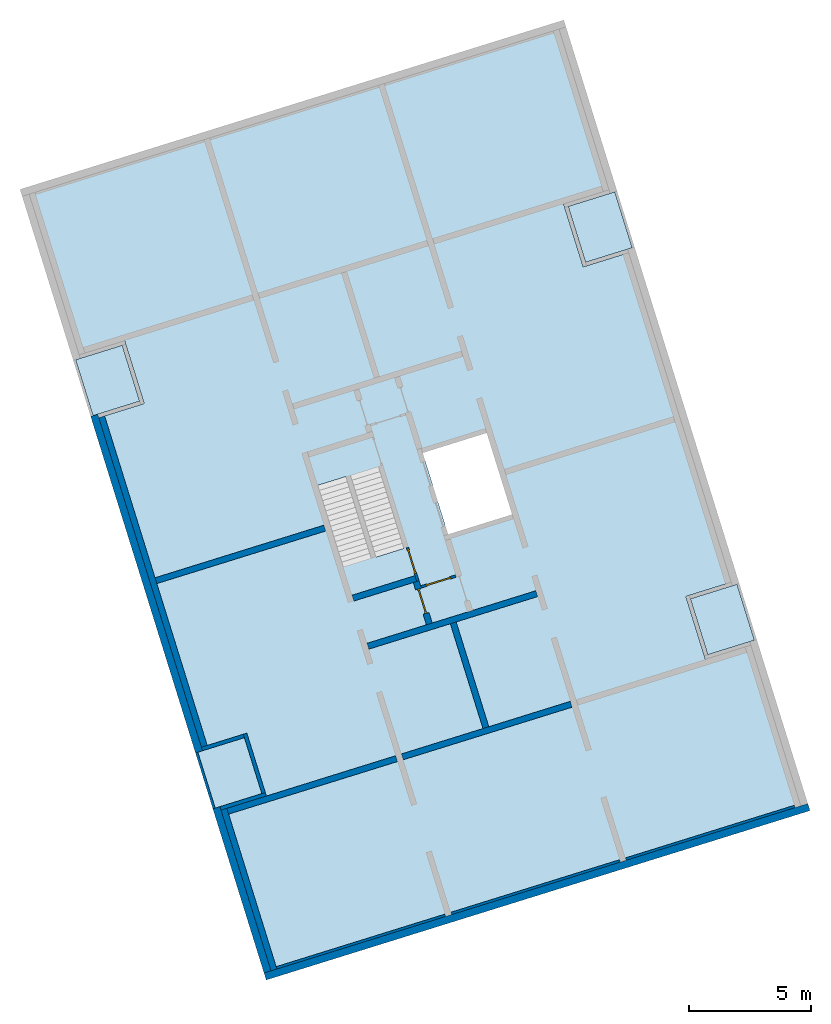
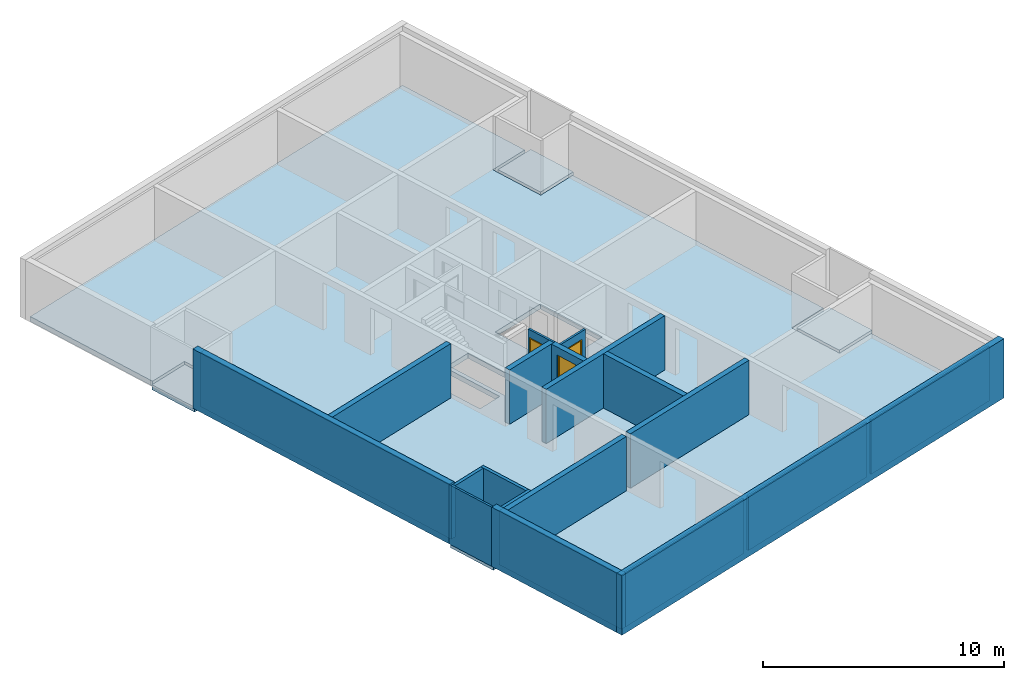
# One storey, part 1 of 5: 21 walls, 5 slabs, 3 doors, 5 openings.
"""IFC4 building model written with IfcOpenShell, lengths in metres."""

from ifc_helpers import new_model, entity, si_unit, converted_unit, direction, frame, origin, place, context, subcontext, project, spatial, indexed_curve, outline, extrude, polygons, source, transform, mapped, material, constituent, constituent_set, type_object, type_shapes, element, fill, save


model = new_model("IFC4")

# Units and contexts
model_context = context("Model", 3, precision=1e-05, world=origin(), true_north=direction((6.12323399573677e-17, 1.0)))
body_context = subcontext(model_context, "Body", "Model", "MODEL_VIEW")
ifc_project = project(units=[si_unit("LENGTHUNIT", "METRE"), si_unit("AREAUNIT", "SQUARE_METRE"), si_unit("VOLUMEUNIT", "CUBIC_METRE"), converted_unit("PLANEANGLEUNIT", "DEGREE", entity("IfcPlaneAngleMeasure", 0.0174532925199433), si_unit("PLANEANGLEUNIT", "RADIAN"), dimensions=[0, 0, 0, 0, 0, 0, 0])], contexts=[model_context])

# Site, building, storey
site_placement = place(None, frame((13.1347999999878, 11.9886000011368, 0.0), z_axis=(0.0, 0.0, 1.0), x_axis=(0.954770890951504, 0.297342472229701, 0.0)))
site = spatial("IfcSite", under=ifc_project, at=site_placement, Name="Schiehaven", CompositionType="ELEMENT")
building_placement = place(site_placement, origin())
building = spatial("IfcBuilding", under=site, at=building_placement, Name="VORM huis", CompositionType="ELEMENT")
storey_placement = place(building_placement, frame((0.0, 0.0, 3.9)))
storey = spatial("IfcBuildingStorey", under=building, at=storey_placement, Name="01 eerste verdieping", CompositionType="ELEMENT", Elevation=3.9)

# Slab, openings
ifc_material_1 = material(Name="beton_gewapend_ihw", Category="Miscellaneous")
slab_type_1 = type_object("IfcSlabType", Name="Floor:28_FL_skelet_vloer 250mm", PredefinedType="FLOOR", material=ifc_material_1)
slab_1_placement = place(storey_placement, origin())
slab_1 = element("IfcSlab", 1, at=slab_1_placement, inside=storey, type_object=slab_type_1, material=ifc_material_1, Name="Constructieve vloer", ObjectType="Vloer", PredefinedType="FLOOR", context=body_context, shape_type="SweptSolid", body=[
    extrude(outline(indexed_curve([(-16.6749999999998, -11.3750000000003), (-9.77499999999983, -11.3750000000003), (-9.77499999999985, -9.42499999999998), (-7.07499999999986, -9.42499999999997), (-7.07499999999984, -11.375), (7.07500000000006, -11.375), (7.07500000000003, -9.42499999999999), (9.77500000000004, -9.42499999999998), (9.77500000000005, -11.375), (16.6749999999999, -11.375), (16.6749999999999, 11.3750000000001), (9.77499999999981, 11.3750000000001), (9.77499999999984, 9.42500000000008), (7.07499999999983, 9.42500000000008), (7.07499999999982, 11.3750000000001), (-7.07500000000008, 11.3750000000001), (-7.07500000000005, 9.42500000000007), (-9.77500000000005, 9.42500000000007), (-9.77500000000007, 11.3750000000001), (-16.6749999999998, 11.3749999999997), (-16.6749999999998, -11.3750000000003)], self_intersect=False), holes=[indexed_curve([(1.75000000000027, 3.62499999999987), (1.75000000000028, 0.874999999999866), (-1.74999999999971, 0.874999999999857), (-1.74999999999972, 3.62499999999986), (1.75000000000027, 3.62499999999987)], self_intersect=False), indexed_curve([(-1.53999999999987, -2.22500000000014), (-1.53999999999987, -1.02500000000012), (1.76000000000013, -1.02500000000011), (1.76000000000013, -2.22500000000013), (-1.53999999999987, -2.22500000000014)], self_intersect=False), indexed_curve([(1.54000000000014, -3.62500000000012), (-1.75999999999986, -3.62500000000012), (-1.75999999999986, -2.42500000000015), (1.54000000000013, -2.42500000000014), (1.54000000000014, -3.62500000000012)], self_intersect=False)]), frame((68.7500000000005, 17.05, -0.249999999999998), z_axis=(0.0, 0.0, 1.0), x_axis=(0.0, -1.0, 0.0)), (0.0, 0.0, 1.0), 0.25),
])
opening_1_placement = place(slab_1_placement, origin())
element("IfcOpeningElement", 2, at=opening_1_placement, cuts=slab_1, Name="Constructieve vloer", PredefinedType="OPENING", context=body_context, shape_type="SweptSolid", body=[
    extrude(outline(indexed_curve([(-1.75, -1.375), (1.75, -1.375), (1.75, 1.37500000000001), (-1.75, 1.37500000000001), (-1.75, -1.375)], self_intersect=False)), frame((71.0, 17.0499999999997, -0.25), z_axis=(0.0, 0.0, 1.0), x_axis=(0.0, 1.0, 0.0)), (0.0, 0.0, 1.0), 0.25),
])
opening_2_placement = place(slab_1_placement, origin())
element("IfcOpeningElement", 3, at=opening_2_placement, cuts=slab_1, Name="Constructieve vloer", PredefinedType="OPENING", context=body_context, shape_type="SweptSolid", body=[
    extrude(outline(indexed_curve([(-1.65, -0.600000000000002), (1.65000000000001, -0.599999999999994), (1.65000000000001, 0.60000000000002), (-1.65, 0.600000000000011), (-1.65, -0.600000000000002)], self_intersect=False)), frame((67.1250000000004, 16.9399999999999, -0.25), z_axis=(0.0, 0.0, 1.0), x_axis=(0.0, -1.0, 0.0)), (0.0, 0.0, 1.0), 0.25),
])

# Slabs
slab_type_2 = type_object("IfcSlabType", Name="Floor:28_FL_skelet_dakterrasvloer 250mm", PredefinedType="ROOF", material=ifc_material_1)
slab_2_placement = place(storey_placement, origin())
element("IfcSlab", 4, at=slab_2_placement, inside=storey, type_object=slab_type_2, material=ifc_material_1, Name="Begaanbare dakvloer", ObjectType="Vloer", PredefinedType="ROOF", context=body_context, shape_type="SweptSolid", body=[
    extrude(outline(indexed_curve([(-1.20000000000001, -1.00000000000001), (1.20000000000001, -1.00000000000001), (1.20000000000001, 1.00000000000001), (-1.20000000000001, 1.00000000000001), (-1.20000000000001, -1.00000000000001)], self_intersect=False)), frame((79.3250000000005, 8.62500000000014, 0.0), z_axis=(0.0, 0.0, -1.0), x_axis=(0.0, 1.0, 0.0)), (0.0, 0.0, 1.0), 0.25),
])
slab_3_placement = place(storey_placement, origin())
element("IfcSlab", 5, at=slab_3_placement, inside=storey, type_object=slab_type_2, material=ifc_material_1, Name="Begaanbare dakvloer", ObjectType="Vloer", PredefinedType="ROOF", context=body_context, shape_type="SweptSolid", body=[
    extrude(outline(indexed_curve([(-1.2, -0.999999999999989), (1.2, -0.999999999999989), (1.2, 1.00000000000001), (-1.2, 1.00000000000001), (-1.2, -0.999999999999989)], self_intersect=False)), frame((79.3250000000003, 25.475, 0.0), z_axis=(0.0, 0.0, -1.0), x_axis=(0.0, 1.0, 0.0)), (0.0, 0.0, 1.0), 0.25),
])
slab_4_placement = place(storey_placement, origin())
element("IfcSlab", 6, at=slab_4_placement, inside=storey, type_object=slab_type_2, material=ifc_material_1, Name="Begaanbare dakvloer", ObjectType="Vloer", PredefinedType="ROOF", context=body_context, shape_type="SweptSolid", body=[
    extrude(outline(indexed_curve([(-1.19999999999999, -1.0), (1.2, -1.0), (1.2, 1.0), (-1.2, 1.0), (-1.19999999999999, -1.0)], self_intersect=False)), frame((58.1750000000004, 25.4749999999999, 0.0), z_axis=(0.0, 0.0, -1.0), x_axis=(0.0, 1.0, 0.0)), (0.0, 0.0, 1.0), 0.25),
])
slab_5_placement = place(storey_placement, origin())
element("IfcSlab", 7, at=slab_5_placement, inside=storey, type_object=slab_type_2, material=ifc_material_1, Name="Begaanbare dakvloer", ObjectType="Vloer", PredefinedType="ROOF", context=body_context, shape_type="SweptSolid", body=[
    extrude(outline(indexed_curve([(-1.20000000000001, -0.999999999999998), (1.19999999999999, -0.999999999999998), (1.20000000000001, 1.00000000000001), (-1.19999999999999, 1.00000000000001), (-1.20000000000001, -0.999999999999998)], self_intersect=False)), frame((58.1750000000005, 8.6250000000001, 0.0), z_axis=(0.0, 0.0, -1.0), x_axis=(0.0, 1.0, 0.0)), (0.0, 0.0, 1.0), 0.25),
])

# Walls
wall_type_1 = type_object("IfcWallType", Name="Basic Wall:28_WA_skelet_wand 250mm_gen", PredefinedType="STANDARD")
wall_1_placement = place(storey_placement, frame((65.1250000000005, 11.9, 0.0)))
element("IfcWall", 8, at=wall_1_placement, inside=storey, type_object=wall_type_1, material=ifc_material_1, Name="Constructieve wand", ObjectType="Wand", PredefinedType="NOTDEFINED", context=body_context, shape_type="SweptSolid", body=[
    extrude(outline(indexed_curve([(7.24999999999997, 0.124999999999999), (1.55325075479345e-16, 0.125), (-1.55325075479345e-16, -0.125), (7.24999999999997, -0.125), (7.24999999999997, 0.124999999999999)], self_intersect=False)), origin(), (0.0, 0.0, 1.0), 2.75),
])
wall_2_placement = place(storey_placement, frame((57.5000000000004, 0.374999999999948, 0.0), z_axis=(0.0, 0.0, 1.0), x_axis=(0.0, 1.0, 0.0)))
element("IfcWall", 9, at=wall_2_placement, inside=storey, type_object=wall_type_1, material=ifc_material_1, Name="Constructieve wand", ObjectType="Wand", PredefinedType="NOTDEFINED", context=body_context, shape_type="SweptSolid", body=[
    extrude(outline(indexed_curve([(6.90000000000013, 0.124999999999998), (-5.78291890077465e-18, 0.124999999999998), (5.78291890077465e-18, -0.124999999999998), (6.90000000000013, -0.124999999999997), (6.90000000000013, 0.124999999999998)], self_intersect=False)), origin(), (0.0, 0.0, 1.0), 2.75),
])
wall_3_placement = place(storey_placement, frame((57.5000000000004, 9.97500000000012, 0.0), z_axis=(0.0, 0.0, 1.0), x_axis=(0.0, 1.0, 0.0)))
element("IfcWall", 10, at=wall_3_placement, inside=storey, type_object=wall_type_1, material=ifc_material_1, Name="Constructieve wand", ObjectType="Wand", PredefinedType="NOTDEFINED", context=body_context, shape_type="SweptSolid", body=[
    extrude(outline(indexed_curve([(14.1499999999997, 0.124999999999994), (-4.21058548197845e-17, 0.124999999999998), (4.21058548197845e-17, -0.124999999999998), (14.1499999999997, -0.125000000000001), (14.1499999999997, 0.124999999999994)], self_intersect=False)), origin(), (0.0, 0.0, 1.0), 2.75),
])
ifc_material_2 = material(Name="ntb_ntb_ntb", Category="Miscellaneous")
wall_type_2 = type_object("IfcWallType", Name="Basic Wall:21_WA_gevel_binnenspouwwand 100mm_gen", PredefinedType="STANDARD")
wall_4_placement = place(storey_placement, frame((79.8750000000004, 0.425000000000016, 0.0), z_axis=(0.0, 0.0, 1.0), x_axis=(-1.0, 0.0, 0.0)))
element("IfcWall", 11, at=wall_4_placement, inside=storey, type_object=wall_type_2, material=ifc_material_2, Name="Binnenspouwblad", ObjectType="Wand", PredefinedType="NOTDEFINED", context=body_context, shape_type="SweptSolid", body=[
    extrude(outline(indexed_curve([(7.24999999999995, 0.05), (1.85806403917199e-16, 0.05), (-1.85806403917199e-16, -0.05), (7.24999999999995, -0.05), (7.24999999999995, 0.05)], self_intersect=False)), origin(), (0.0, 0.0, 1.0), 2.75),
])
wall_5_placement = place(storey_placement, frame((65.1250000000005, 0.424999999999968, 0.0)))
element("IfcWall", 12, at=wall_5_placement, inside=storey, type_object=wall_type_2, material=ifc_material_2, Name="Binnenspouwblad", ObjectType="Wand", PredefinedType="NOTDEFINED", context=body_context, shape_type="SweptSolid", body=[
    extrude(outline(indexed_curve([(7.24999999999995, 0.05), (3.39999654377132e-16, 0.05), (-3.39999654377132e-16, -0.05), (7.24999999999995, -0.05), (7.24999999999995, 0.05)], self_intersect=False)), origin(), (0.0, 0.0, 1.0), 2.75),
])
wall_6_placement = place(storey_placement, frame((64.8750000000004, 0.425000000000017, 0.0), z_axis=(0.0, 0.0, 1.0), x_axis=(-1.0, 0.0, 0.0)))
element("IfcWall", 13, at=wall_6_placement, inside=storey, type_object=wall_type_2, material=ifc_material_2, Name="Binnenspouwblad", ObjectType="Wand", PredefinedType="NOTDEFINED", context=body_context, shape_type="SweptSolid", body=[
    extrude(outline(indexed_curve([(7.24999999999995, 0.05), (1.85806403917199e-16, 0.05), (-1.85806403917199e-16, -0.05), (7.24999999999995, -0.05), (7.24999999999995, 0.05)], self_intersect=False)), origin(), (0.0, 0.0, 1.0), 2.75),
])
wall_type_3 = type_object("IfcWallType", Name="Basic Wall: 300mm_gen", PredefinedType="STANDARD")
wall_7_placement = place(storey_placement, frame((57.0750000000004, 0.225000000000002, 0.0)))
element("IfcWall", 14, at=wall_7_placement, inside=storey, type_object=wall_type_3, material=ifc_material_2, Name="Gevelwand", ObjectType="Wand", PredefinedType="NOTDEFINED", context=body_context, shape_type="SweptSolid", body=[
    extrude(outline(indexed_curve([(23.3500000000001, 0.15), (3.95309745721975e-16, 0.15), (-3.95309745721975e-16, -0.15), (23.3500000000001, -0.15), (23.3500000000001, 0.15)], self_intersect=False)), origin(), (0.0, 0.0, 1.0), 3.0),
])
wall_8_placement = place(storey_placement, frame((57.2250000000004, 0.375000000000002, 0.0), z_axis=(0.0, 0.0, 1.0), x_axis=(0.0, 1.0, 0.0)))
element("IfcWall", 15, at=wall_8_placement, inside=storey, type_object=wall_type_3, material=ifc_material_2, Name="Gevelwand", ObjectType="Wand", PredefinedType="NOTDEFINED", context=body_context, shape_type="SweptSolid", body=[
    extrude(outline(indexed_curve([(7.05000000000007, 0.150000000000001), (-3.01607105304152e-18, 0.150000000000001), (3.01607105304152e-18, -0.150000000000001), (7.05000000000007, -0.15), (7.05000000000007, 0.150000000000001)], self_intersect=False)), origin(), (0.0, 0.0, 1.0), 3.0),
])
wall_9_placement = place(storey_placement, frame((57.2250000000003, 9.82500000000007, 0.0), z_axis=(0.0, 0.0, 1.0), x_axis=(0.0, 1.0, 0.0)))
element("IfcWall", 16, at=wall_9_placement, inside=storey, type_object=wall_type_3, material=ifc_material_2, Name="Gevelwand", ObjectType="Wand", PredefinedType="NOTDEFINED", context=body_context, shape_type="SweptSolid", body=[
    extrude(outline(indexed_curve([(14.4499999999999, 0.149999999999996), (4.01966243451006e-16, 0.150000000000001), (-4.01966243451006e-16, -0.150000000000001), (14.4499999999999, -0.150000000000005), (14.4499999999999, 0.149999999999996)], self_intersect=False)), origin(), (0.0, 0.0, 1.0), 3.0),
])
wall_type_4 = type_object("IfcWallType", Name="Basic Wall:22_WA_afbouw_binnenwand 250mm_gen", PredefinedType="STANDARD")
wall_10_placement = place(storey_placement, frame((64.8750000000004, 17.05, 0.0), z_axis=(0.0, 0.0, 1.0), x_axis=(-1.0, 0.0, 0.0)))
element("IfcWall", 17, at=wall_10_placement, inside=storey, type_object=wall_type_4, material=ifc_material_2, Name="Binnenwand", ObjectType="Wand", PredefinedType="NOTDEFINED", context=body_context, shape_type="SweptSolid", body=[
    extrude(outline(indexed_curve([(7.24999999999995, 0.125), (2.64740926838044e-16, 0.125), (-2.64740926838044e-16, -0.125), (7.24999999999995, -0.125), (7.24999999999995, 0.125)], self_intersect=False)), origin(), (0.0, 0.0, 1.0), 2.75),
])
wall_11_placement = place(storey_placement, frame((68.7500000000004, 11.775, 0.0), z_axis=(0.0, 0.0, 1.0), x_axis=(0.0, -1.0, 0.0)))
element("IfcWall", 18, at=wall_11_placement, inside=storey, type_object=wall_type_4, material=ifc_material_2, Name="Binnenwand", ObjectType="Wand", PredefinedType="NOTDEFINED", context=body_context, shape_type="SweptSolid", body=[
    extrude(outline(indexed_curve([(4.49999999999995, 0.125000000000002), (3.71478537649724e-16, 0.124999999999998), (-3.71478537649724e-16, -0.124999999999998), (4.49999999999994, -0.124999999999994), (4.49999999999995, 0.125000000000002)], self_intersect=False)), origin(), (0.0, 0.0, 1.0), 2.75),
])

# Wall, opening, door
wall_12_placement = place(storey_placement, frame((67.8000000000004, 13.84, 0.0), z_axis=(0.0, 0.0, 1.0), x_axis=(0.0, -1.0, 0.0)))
wall_12 = element("IfcWall", 19, at=wall_12_placement, inside=storey, type_object=wall_type_4, material=ifc_material_2, Name="Binnenwand", ObjectType="Wand", PredefinedType="NOTDEFINED", context=body_context, shape_type="Tessellation", body=[
    polygons([(1.36500000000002, -0.125000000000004, 2.34999999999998), (1.36500000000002, -0.125000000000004, -5.41433564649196e-16), (1.815, -0.125000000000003, -5.41433564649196e-16), (1.815, -0.125000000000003, 2.75), (0.0, -0.125000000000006, 2.75), (0.0, -0.125000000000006, -5.41433564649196e-16), (0.315000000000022, -0.125000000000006, -5.41433564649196e-16), (0.315000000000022, -0.125000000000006, 2.34999999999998), (1.815, 0.12500000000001, -5.41433564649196e-16), (1.36500000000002, 0.125000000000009, -5.41433564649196e-16), (1.36500000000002, 0.125000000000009, 2.34999999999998), (0.315000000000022, 0.125000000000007, 2.34999999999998), (0.315000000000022, 0.125000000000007, -5.41433564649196e-16), (0.215000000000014, 0.124999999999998, 0.0), (0.0, 0.125000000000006, -5.41433564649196e-16), (0.0, 0.125000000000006, 2.75), (0.215000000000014, 0.124999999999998, 2.75), (0.315000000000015, 0.124999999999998, 2.75), (1.815, 0.12500000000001, 2.75), (0.0, 0.0250000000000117, 0.0), (0.0, 0.0250000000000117, 2.75)], [[[1, 2, 3, 4, 5, 6, 7, 8]], [[9, 10, 11, 12, 13, 14, 15, 16, 17, 18, 19]], [[7, 6, 20, 15, 14, 13]], [[4, 3, 9, 19]], [[5, 4, 19, 18, 17, 16, 21]], [[13, 12, 8, 7]], [[11, 10, 2, 1]], [[12, 11, 1, 8]], [[6, 5, 21, 16, 15, 20]], [[3, 2, 10, 9]]], closed=True),
])
opening_3_placement = place(wall_12_placement, frame((0.315000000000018, -0.124999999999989, 0.0)))
opening_3 = element("IfcOpeningElement", 20, at=opening_3_placement, cuts=wall_12, Name="Woningtoegangsdeur", PredefinedType="OPENING", context=body_context, shape_type="SweptSolid", body=[
    extrude(outline(indexed_curve([(2.34999999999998, 1.35358391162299e-15), (2.34999999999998, 1.05), (0.0, 1.05), (0.0, 1.35358391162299e-15), (2.34999999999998, 1.35358391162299e-15)], self_intersect=False)), frame((0.0, 0.0, 0.0), z_axis=(0.0, 1.0, 0.0), x_axis=(0.0, 0.0, 1.0)), (0.0, 0.0, 1.0), 0.25),
])
ifc_material_3 = material(Name="PD_a_binnenwandopeningen", Category="Miscellaneous")
ifc_constituent_1 = constituent(ifc_material_3, Name="PD_a_binnenwandopeningen", Category="Miscellaneous")
ifc_material_4 = material(Name="metaal_aluminium_ntb", Category="Miscellaneous")
ifc_constituent_2 = constituent(ifc_material_4, Name="metaal_aluminium_ntb", Category="Miscellaneous")
ifc_constituent_set_1 = constituent_set(constituents=[ifc_constituent_1, ifc_constituent_2])
ifc_constituent_3 = constituent(ifc_material_3, Name="PD_a_binnenwandopeningen", Category="Miscellaneous")
ifc_constituent_4 = constituent(ifc_material_4, Name="Panel", Category="Miscellaneous")
ifc_constituent_set_2 = constituent_set(constituents=[ifc_constituent_3, ifc_constituent_4])
door_type_1 = type_object("IfcDoorType", Name="32_DO_binnendeur enkel:woningtoegangsdeur", OperationType="REVOLVING", PredefinedType="DOOR", material=ifc_constituent_set_2)
shared_shape_1 = source(origin(), body_context, "Body", "SweptSolid", [
    extrude(outline(indexed_curve([(0.475, -1.16249999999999), (0.525000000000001, -1.16249999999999), (0.525000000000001, 1.18749999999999), (-0.525000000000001, 1.18749999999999), (-0.525000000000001, -1.16249999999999), (-0.475, -1.16249999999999), (-0.475, 1.13749999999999), (0.475, 1.13749999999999), (0.475, -1.16249999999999)], self_intersect=False)), frame((0.525000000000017, 0.174999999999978, 1.16249999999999), z_axis=(0.0, -1.0, 0.0), x_axis=(1.0, 0.0, 0.0)), (0.0, 0.0, 1.0), 0.1),
    extrude(outline(indexed_curve([(-0.475, -0.025), (0.475, -0.025), (0.475, 0.025), (-0.475, 0.025), (-0.475, -0.025)], self_intersect=False)), frame((0.525000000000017, 0.12499999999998, 0.0)), (0.0, 0.0, 1.0), 2.29999999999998),
])
type_shapes(door_type_1, [shared_shape_1])
door_1_placement = place(opening_3_placement, origin())
door_1 = element("IfcDoor", 21, at=door_1_placement, inside=storey, type_object=door_type_1, material=ifc_constituent_set_1, Name="Woningtoegangsdeur", ObjectType="Deur", OperationType="REVOLVING", OverallHeight=2.34999999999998, OverallWidth=1.05, PredefinedType="DOOR", context=body_context, shape_type="MappedRepresentation", body=[
    mapped(shared_shape_1, transform((0.0, 0.0, 0.0), scale=1.0)),
])
fill(opening_3, door_1)

# Walls
wall_13_placement = place(storey_placement, frame((65.1250000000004, 13.965, 0.0)))
element("IfcWall", 22, at=wall_13_placement, inside=storey, type_object=wall_type_4, material=ifc_material_2, Name="Binnenwand", ObjectType="Wand", PredefinedType="NOTDEFINED", context=body_context, shape_type="SweptSolid", body=[
    extrude(outline(indexed_curve([(2.70000000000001, 0.125), (3.72202764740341e-16, 0.125), (-3.72202764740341e-16, -0.125), (2.70000000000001, -0.124999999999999), (2.70000000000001, 0.125)], self_intersect=False)), origin(), (0.0, 0.0, 1.0), 2.75),
])
for number, where, z_axis, x_axis in (
    (23, (64.8750000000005, 7.15000000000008, 0.0), (0.0, 0.0, 1.0), (-1.0, 0.0, 0.0)),
    (24, (72.3750000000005, 7.1500000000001, 0.0), (0.0, 0.0, 1.0), (-1.0, 0.0, 0.0)),
):
    element("IfcWall", number, at=place(storey_placement, frame(where, z_axis=z_axis, x_axis=x_axis)), inside=storey, type_object=wall_type_4, material=ifc_material_2, Name="Binnenwand", ObjectType="Wand", PredefinedType="NOTDEFINED", context=body_context, shape_type="SweptSolid", body=[
        extrude(outline(indexed_curve([(7.24999999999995, 0.125), (2.64740926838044e-16, 0.125), (-2.64740926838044e-16, -0.125), (7.24999999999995, -0.125), (7.24999999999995, 0.125)], self_intersect=False)), origin(), (0.0, 0.0, 1.0), 2.75),
    ])

# Wall, opening, door
wall_type_5 = type_object("IfcWallType", Name="Basic Wall:22_WA_afbouw_binnenwand 100mm_gen", PredefinedType="STANDARD")
wall_14_placement = place(storey_placement, frame((67.8750000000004, 13.84, 0.0), z_axis=(0.0, 0.0, 1.0), x_axis=(0.0, 1.0, 0.0)))
wall_14 = element("IfcWall", 25, at=wall_14_placement, inside=storey, type_object=wall_type_5, material=ifc_material_2, Name="Binnenwand", ObjectType="Wand", PredefinedType="NOTDEFINED", context=body_context, shape_type="Tessellation", body=[
    polygons([(1.44999999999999, -0.0500000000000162, -5.41433564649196e-16), (1.44999999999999, -0.0500000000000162, 2.75), (0.0, -0.0500000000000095, 2.75), (0.0, -0.0500000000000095, -5.41433564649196e-16), (0.324999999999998, -0.050000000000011, -5.41433564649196e-16), (0.324999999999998, -0.050000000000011, 2.34999999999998), (1.375, -0.0500000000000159, 2.34999999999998), (1.375, -0.0500000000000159, -5.41433564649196e-16), (1.44999999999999, 0.049999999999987, 2.75), (1.44999999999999, 0.049999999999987, -5.41433564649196e-16), (1.375, 0.0499999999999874, -5.41433564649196e-16), (1.37499999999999, 0.0499999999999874, 2.34999999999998), (0.324999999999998, 0.0499999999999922, 2.34999999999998), (0.324999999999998, 0.0499999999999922, -5.41433564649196e-16), (0.249999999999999, 0.0499999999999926, 0.0), (0.0, 0.0499999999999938, -5.41433564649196e-16), (0.0, 0.0499999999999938, 2.75), (0.249999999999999, 0.0499999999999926, 2.75)], [[[1, 2, 3, 4, 5, 6, 7, 8]], [[9, 10, 11, 12, 13, 14, 15, 16, 17, 18]], [[4, 16, 15, 14, 5]], [[2, 1, 10, 9]], [[3, 2, 9, 18, 17]], [[13, 6, 5, 14]], [[7, 12, 11, 8]], [[6, 13, 12, 7]], [[4, 3, 17, 16]], [[10, 1, 8, 11]]], closed=True),
])
opening_4_placement = place(wall_14_placement, frame((0.324999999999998, -0.0500000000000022, 0.0)))
opening_4 = element("IfcOpeningElement", 26, at=opening_4_placement, cuts=wall_14, Name="Vluchtdeur", PredefinedType="OPENING", context=body_context, shape_type="SweptSolid", body=[
    extrude(outline(indexed_curve([(2.34999999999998, 1.35358391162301e-15), (2.34999999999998, 1.05), (0.0, 1.05), (0.0, 1.35358391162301e-15), (2.34999999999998, 1.35358391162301e-15)], self_intersect=False)), frame((0.0, 0.0, 0.0), z_axis=(0.0, 1.0, 0.0), x_axis=(0.0, 0.0, 1.0)), (0.0, 0.0, 1.0), 0.1),
])
ifc_constituent_5 = constituent(ifc_material_3, Name="PD_a_binnenwandopeningen", Category="Miscellaneous")
ifc_constituent_6 = constituent(ifc_material_4, Name="metaal_aluminium_ntb", Category="Miscellaneous")
ifc_constituent_set_3 = constituent_set(constituents=[ifc_constituent_5, ifc_constituent_6])
ifc_constituent_7 = constituent(ifc_material_3, Name="PD_a_binnenwandopeningen", Category="Miscellaneous")
ifc_constituent_8 = constituent(ifc_material_4, Name="Panel", Category="Miscellaneous")
ifc_constituent_set_4 = constituent_set(constituents=[ifc_constituent_7, ifc_constituent_8])
door_type_2 = type_object("IfcDoorType", Name="32_DO_binnendeur enkel:binnendeur zelfsluitend 30min", OperationType="NOTDEFINED", PredefinedType="DOOR", material=ifc_constituent_set_4)
shared_shape_2 = source(origin(), body_context, "Body", "SweptSolid", [
    extrude(outline(indexed_curve([(0.475, -1.16249999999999), (0.525, -1.16249999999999), (0.525, 1.18749999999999), (-0.525, 1.18749999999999), (-0.525, -1.16249999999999), (-0.475, -1.16249999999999), (-0.475, 1.13749999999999), (0.475, 1.13749999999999), (0.475, -1.16249999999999)], self_intersect=False)), frame((0.525000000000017, 0.100000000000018, 1.16249999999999), z_axis=(0.0, -1.0, 0.0), x_axis=(1.0, 0.0, 0.0)), (0.0, 0.0, 1.0), 0.1),
    extrude(outline(indexed_curve([(-0.475, -0.025), (0.475, -0.025), (0.475, 0.025), (-0.475, 0.025), (-0.475, -0.025)], self_intersect=False)), frame((0.525000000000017, 0.0499999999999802, 0.0)), (0.0, 0.0, 1.0), 2.29999999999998),
])
type_shapes(door_type_2, [shared_shape_2])
door_2_placement = place(opening_4_placement, origin())
door_2 = element("IfcDoor", 27, at=door_2_placement, inside=storey, type_object=door_type_2, material=ifc_constituent_set_3, Name="Vluchtdeur", ObjectType="Deur", OperationType="NOTDEFINED", OverallHeight=2.34999999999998, OverallWidth=1.05, PredefinedType="DOOR", context=body_context, shape_type="MappedRepresentation", body=[
    mapped(shared_shape_2, transform((0.0, 0.0, 0.0), scale=1.0)),
])
fill(opening_4, door_2)

wall_15_placement = place(storey_placement, frame((67.9250000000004, 13.575, 0.0)))
wall_15 = element("IfcWall", 28, at=wall_15_placement, inside=storey, type_object=wall_type_5, material=ifc_material_2, Name="Binnenwand", ObjectType="Wand", PredefinedType="NOTDEFINED", context=body_context, shape_type="Tessellation", body=[
    polygons([(1.50000000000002, -0.0500000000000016, 2.75), (6.75517154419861e-15, -0.0500000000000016, 2.75), (-1.90776549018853e-15, -0.0500000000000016, 2.34999999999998), (6.75517154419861e-15, -0.0500000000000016, -5.41433564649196e-16), (0.22499999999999, -0.0500000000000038, -5.41433564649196e-16), (0.22499999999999, -0.0500000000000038, 2.34999999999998), (1.27499999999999, -0.0500000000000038, 2.34999999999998), (1.27499999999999, -0.0500000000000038, -5.41433564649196e-16), (1.50000000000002, -0.0500000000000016, -5.41433564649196e-16), (1.50000000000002, -0.0500000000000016, 2.34999999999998), (7.57373284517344e-15, 0.0499999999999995, 2.75), (1.50000000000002, 0.0499999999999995, 2.75), (1.50000000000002, 0.0499999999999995, -5.41433564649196e-16), (1.275, 0.0499999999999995, -5.41433564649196e-16), (1.275, 0.0499999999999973, 2.34999999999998), (0.224999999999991, 0.0499999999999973, 2.34999999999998), (0.224999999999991, 0.0499999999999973, -5.41433564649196e-16), (7.57373284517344e-15, 0.0499999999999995, -5.41433564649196e-16)], [[[1, 2, 3, 4, 5, 6, 7, 8, 9, 10]], [[11, 12, 13, 14, 15, 16, 17, 18]], [[4, 18, 17, 5]], [[2, 1, 12, 11]], [[16, 6, 5, 17]], [[6, 16, 15, 7]], [[7, 15, 14, 8]], [[4, 3, 2, 11, 18]], [[1, 10, 9, 13, 12]], [[13, 9, 8, 14]]], closed=True),
])
opening_5_placement = place(wall_15_placement, frame((0.225000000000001, -0.0499999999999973, 0.0)))
opening_5 = element("IfcOpeningElement", 29, at=opening_5_placement, cuts=wall_15, Name="Vluchtdeur", PredefinedType="OPENING", context=body_context, shape_type="SweptSolid", body=[
    extrude(outline(indexed_curve([(2.34999999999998, 1.05), (0.0, 1.05), (0.0, 0.0), (2.34999999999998, 0.0), (2.34999999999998, 1.05)], self_intersect=False)), frame((0.0, 0.0, 0.0), z_axis=(0.0, 1.0, 0.0), x_axis=(0.0, 0.0, 1.0)), (0.0, 0.0, 1.0), 0.1),
])
ifc_constituent_9 = constituent(ifc_material_3, Name="PD_a_binnenwandopeningen", Category="Miscellaneous")
ifc_constituent_10 = constituent(ifc_material_4, Name="metaal_aluminium_ntb", Category="Miscellaneous")
ifc_constituent_set_5 = constituent_set(constituents=[ifc_constituent_9, ifc_constituent_10])
ifc_constituent_11 = constituent(ifc_material_3, Name="PD_a_binnenwandopeningen", Category="Miscellaneous")
ifc_constituent_12 = constituent(ifc_material_4, Name="Panel", Category="Miscellaneous")
ifc_constituent_set_6 = constituent_set(constituents=[ifc_constituent_11, ifc_constituent_12])
door_type_3 = type_object("IfcDoorType", Name="32_DO_binnendeur enkel:binnendeur zelfsluitend 30min", OperationType="NOTDEFINED", PredefinedType="DOOR", material=ifc_constituent_set_6)
shared_shape_3 = source(origin(), body_context, "Body", "SweptSolid", [
    extrude(outline(indexed_curve([(-1.16249999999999, -0.525000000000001), (1.18749999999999, -0.525), (1.18749999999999, 0.525), (-1.16249999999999, 0.525), (-1.16249999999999, 0.475), (1.13749999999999, 0.475), (1.13749999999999, -0.475), (-1.16249999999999, -0.475), (-1.16249999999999, -0.525000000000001)], self_intersect=False)), frame((0.525000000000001, 0.0, 1.16249999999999), z_axis=(0.0, 1.0, 0.0), x_axis=(0.0, 0.0, 1.0)), (0.0, 0.0, 1.0), 0.1),
    extrude(outline(indexed_curve([(-0.025, -0.475), (0.025, -0.475), (0.025, 0.475), (-0.025, 0.475), (-0.025, -0.475)], self_intersect=False)), frame((0.525000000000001, 0.0499999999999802, 0.0), z_axis=(0.0, 0.0, 1.0), x_axis=(0.0, 1.0, 0.0)), (0.0, 0.0, 1.0), 2.29999999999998),
])
type_shapes(door_type_3, [shared_shape_3])
door_3_placement = place(opening_5_placement, origin())
door_3 = element("IfcDoor", 30, at=door_3_placement, inside=storey, type_object=door_type_3, material=ifc_constituent_set_5, Name="Vluchtdeur", ObjectType="Deur", OperationType="NOTDEFINED", OverallHeight=2.34999999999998, OverallWidth=1.05, PredefinedType="DOOR", context=body_context, shape_type="MappedRepresentation", body=[
    mapped(shared_shape_3, transform((0.0, 0.0, 0.0), scale=1.0)),
])
fill(opening_5, door_3)

# Walls
wall_type_6 = type_object("IfcWallType", Name="Basic Wall: 150mm_gen", PredefinedType="STANDARD")
wall_16_placement = place(storey_placement, frame((57.3750000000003, 7.35000000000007, 0.0)))
element("IfcWall", 31, at=wall_16_placement, inside=storey, type_object=wall_type_6, material=ifc_material_2, Name="Gevelwand", ObjectType="Wand", PredefinedType="NOTDEFINED", context=body_context, shape_type="SweptSolid", body=[
    extrude(outline(indexed_curve([(1.95, 0.0749999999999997), (1.45750732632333e-16, 0.0750000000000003), (-1.45750732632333e-16, -0.0750000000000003), (1.95, -0.0750000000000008), (1.95, 0.0749999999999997)], self_intersect=False)), origin(), (0.0, 0.0, 1.0), 2.75),
])
wall_17_placement = place(storey_placement, frame((59.2500000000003, 7.42500000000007, 0.0), z_axis=(0.0, 0.0, 1.0), x_axis=(0.0, 1.0, 0.0)))
element("IfcWall", 32, at=wall_17_placement, inside=storey, type_object=wall_type_6, material=ifc_material_2, Name="Gevelwand", ObjectType="Wand", PredefinedType="NOTDEFINED", context=body_context, shape_type="SweptSolid", body=[
    extrude(outline(indexed_curve([(2.55000000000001, 0.0749999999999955), (3.94811578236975e-16, 0.0750000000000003), (-3.94811578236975e-16, -0.0750000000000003), (2.55, -0.075000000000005), (2.55000000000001, 0.0749999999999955)], self_intersect=False)), origin(), (0.0, 0.0, 1.0), 2.75),
])
wall_18_placement = place(storey_placement, frame((59.1750000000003, 9.90000000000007, 0.0), z_axis=(0.0, 0.0, 1.0), x_axis=(-1.0, 0.0, 0.0)))
element("IfcWall", 33, at=wall_18_placement, inside=storey, type_object=wall_type_6, material=ifc_material_2, Name="Gevelwand", ObjectType="Wand", PredefinedType="NOTDEFINED", context=body_context, shape_type="SweptSolid", body=[
    extrude(outline(indexed_curve([(1.8, 0.0749999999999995), (3.94811578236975e-16, 0.0750000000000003), (-3.94811578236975e-16, -0.0750000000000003), (1.8, -0.0750000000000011), (1.8, 0.0749999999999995)], self_intersect=False)), origin(), (0.0, 0.0, 1.0), 2.75),
])
wall_type_7 = type_object("IfcWallType", Name="Basic Wall: 100mm_gen", PredefinedType="STANDARD")
wall_19_placement = place(storey_placement, frame((57.1250000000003, 7.42500000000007, 0.0), z_axis=(0.0, 0.0, 1.0), x_axis=(0.0, 1.0, 0.0)))
element("IfcWall", 34, at=wall_19_placement, inside=storey, type_object=wall_type_7, material=ifc_material_2, Name="Gevelwand", ObjectType="Wand", PredefinedType="NOTDEFINED", context=body_context, shape_type="SweptSolid", body=[
    extrude(outline(indexed_curve([(2.4, 0.0499999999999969), (1.89237883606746e-16, 0.0499999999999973), (-1.89237883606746e-16, -0.0499999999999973), (2.4, -0.0499999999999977), (2.4, 0.0499999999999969)], self_intersect=False)), origin(), (0.0, 0.0, 1.0), 3.0),
])

save(model, "model.ifc")
